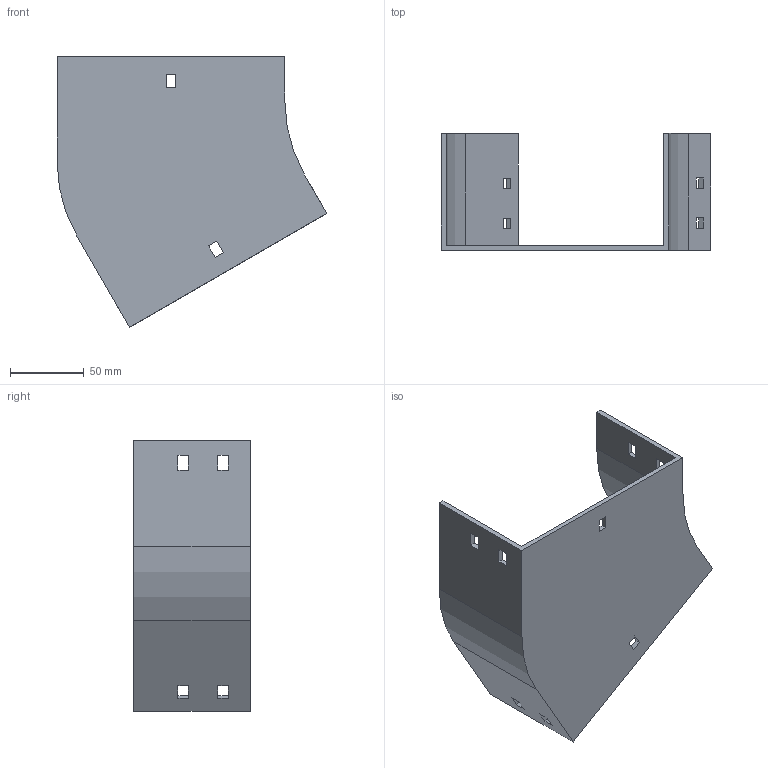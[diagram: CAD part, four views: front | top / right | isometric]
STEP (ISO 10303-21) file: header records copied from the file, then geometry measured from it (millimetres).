
FILE_DESCRIPTION (( 'STEP AP214' ), '1' );
FILE_NAME ('12F1C150.step', '2025-02-21T12:54:32', ( '' ), ( '' ), 'SwSTEP 2.0', 'SolidWorks 2023', '' );
FILE_SCHEMA (( 'AUTOMOTIVE_DESIGN' ));
Length unit declared in the file: millimetre
Products named in the file (1): 12F1C150
Bounding box: 182.4 x 79 x 182.98 mm (x, y, z)
Volume: 162287.1 mm3; surface area: 97114.9 mm2
Topology: 1 solids, 1 shells, 58 faces, 168 edges, 112 vertices
Faces by surface type: plane 54, cylinder 4
Entity records: 1943 total; most frequent: CARTESIAN_POINT 339, ORIENTED_EDGE 336, DIRECTION 294, EDGE_CURVE 168, LINE 160, VECTOR 160, VERTEX_POINT 112, EDGE_LOOP 78
